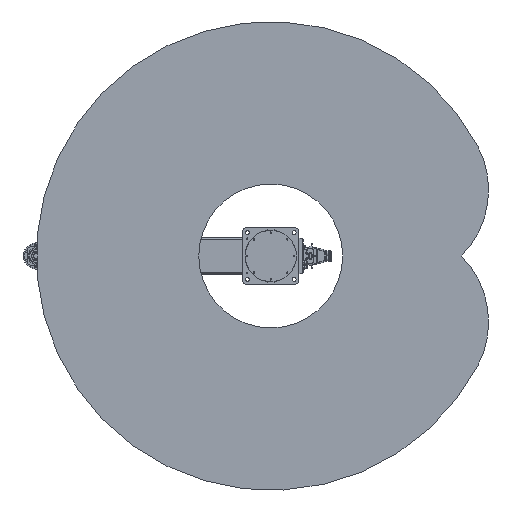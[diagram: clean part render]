
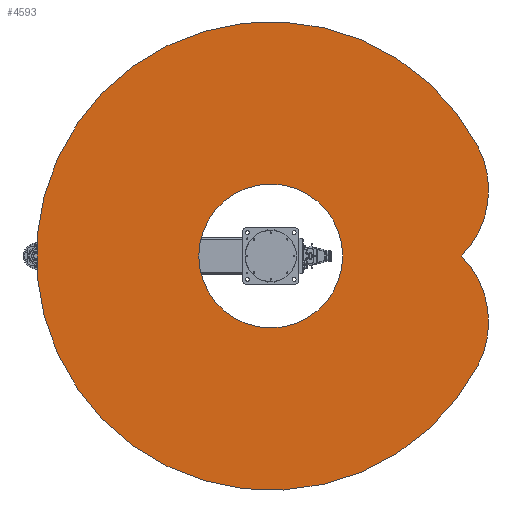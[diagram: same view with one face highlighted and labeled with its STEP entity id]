
A CAD part, front view. The second image highlights one B-rep face of the part: STEP entity #4593.
In plain terms, the highlighted planar face has unit normal (0, -1, 0).
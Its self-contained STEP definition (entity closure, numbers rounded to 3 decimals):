
#4593 = ADVANCED_FACE( '', ( #10866, #10867 ), #10868, .F. );
#10866 = FACE_BOUND( '', #19640, .T. );
#10867 = FACE_OUTER_BOUND( '', #19641, .T. );
#10868 = PLANE( '', #19642 );
#19640 = EDGE_LOOP( '', ( #33354 ) );
#19641 = EDGE_LOOP( '', ( #33355, #33356, #33357 ) );
#19642 = AXIS2_PLACEMENT_3D( '', #33358, #33359, #33360 );
#33354 = ORIENTED_EDGE( '', *, *, #49536, .T. );
#33355 = ORIENTED_EDGE( '', *, *, #49537, .F. );
#33356 = ORIENTED_EDGE( '', *, *, #49538, .F. );
#33357 = ORIENTED_EDGE( '', *, *, #49539, .F. );
#33358 = CARTESIAN_POINT( '', ( 140.842, 0., 264.885 ) );
#33359 = DIRECTION( '', ( 0., 1., 0. ) );
#33360 = DIRECTION( '', ( 0., 0., 1. ) );
#49536 = EDGE_CURVE( '', #60081, #60081, #60082, .T. );
#49537 = EDGE_CURVE( '', #60083, #60084, #60085, .T. );
#49538 = EDGE_CURVE( '', #60086, #60083, #60087, .T. );
#49539 = EDGE_CURVE( '', #60084, #60086, #60088, .T. );
#60081 = VERTEX_POINT( '', #76652 );
#60082 = CIRCLE( '', #76653, 307. );
#60083 = VERTEX_POINT( '', #76654 );
#60084 = VERTEX_POINT( '', #76655 );
#60085 = CIRCLE( '', #76656, 400. );
#60086 = VERTEX_POINT( '', #76657 );
#60087 = CIRCLE( '', #76658, 400. );
#60088 = CIRCLE( '', #76659, 1000. );
#76652 = CARTESIAN_POINT( '', ( 307., 0., 0. ) );
#76653 = AXIS2_PLACEMENT_3D( '', #89038, #89039, #89040 );
#76654 = CARTESIAN_POINT( '', ( 0., 0., 813.767 ) );
#76655 = CARTESIAN_POINT( '', ( 470.133, 0., 882.596 ) );
#76656 = AXIS2_PLACEMENT_3D( '', #89041, #89042, #89043 );
#76657 = CARTESIAN_POINT( '', ( -470.133, 0., 882.596 ) );
#76658 = AXIS2_PLACEMENT_3D( '', #89044, #89045, #89046 );
#76659 = AXIS2_PLACEMENT_3D( '', #89047, #89048, #89049 );
#89038 = CARTESIAN_POINT( '', ( 0., 0., 0. ) );
#89039 = DIRECTION( '', ( 0., 1., 0. ) );
#89040 = DIRECTION( '', ( 1., 0., 0. ) );
#89041 = CARTESIAN_POINT( '', ( 281.683, 0., 529.769 ) );
#89042 = DIRECTION( '', ( 0., 1., 0. ) );
#89043 = DIRECTION( '', ( 1., 0., 0. ) );
#89044 = CARTESIAN_POINT( '', ( -281.683, 0., 529.769 ) );
#89045 = DIRECTION( '', ( 0., 1., 0. ) );
#89046 = DIRECTION( '', ( 1., 0., 0. ) );
#89047 = CARTESIAN_POINT( '', ( 0., 0., 0. ) );
#89048 = DIRECTION( '', ( 0., 1., 0. ) );
#89049 = DIRECTION( '', ( 1., 0., 0. ) );
